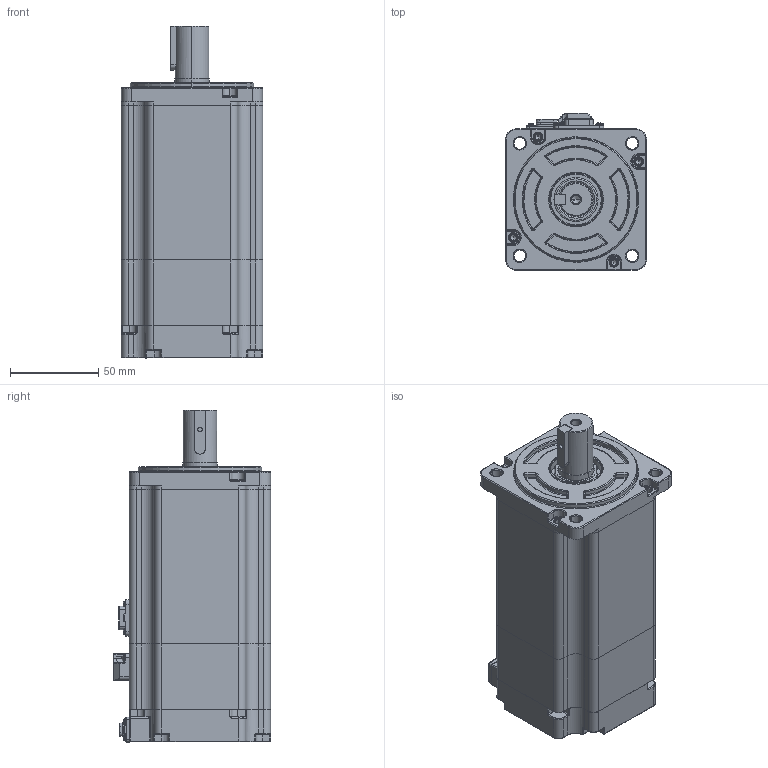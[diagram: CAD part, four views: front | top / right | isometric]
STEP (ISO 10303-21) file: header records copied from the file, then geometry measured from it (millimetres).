
FILE_DESCRIPTION (( 'STEP AP214' ), '1' );
FILE_NAME ('V7E-L08A-1R030-D2.STEP', '2021-08-09T05:52:06', ( '' ), ( '' ), 'SwSTEP 2.0', 'SolidWorks 2014', '' );
FILE_SCHEMA (( 'AUTOMOTIVE_DESIGN' ));
Length unit declared in the file: millimetre
Products named in the file (14): 750W隅赽郪璃; 蚐猾 D00B999YF5-TC 20-30-5-1; V7E-L08A-1R030-D2; 坋趼苤攫芛ISO 7045 - M2 x 5201611; 60-80蚳蚚雄薯脣釱-sc-mc6p-ac-goubanchazuo; 80#陔晤鎢ん欶; SC40陔晤鎢ん瑤脣釱sc-mc7p-a6-zhichuxianchazuo; 80#陔ヶ傷裔; 40#价陬堤盄揤盄裔; 坋趼苤攫芛ISO 7045 - M2 x 5; 普通型 平键   C 6x6x25 带M3起键螺钉孔; 750w儂褲; 80#陔綴傷裔-价陬遴_1; 80#陔粣-750W-拸价陬
Assembly tree (13 placements, depth 3):
  V7E-L08A-1R030-D2
    750W隅赽郪璃
      750w儂褲
      80#陔ヶ傷裔
      60-80蚳蚚雄薯脣釱-sc-mc6p-ac-goubanchazuo
    80#陔綴傷裔-价陬遴_1
    40#价陬堤盄揤盄裔
    坋趼苤攫芛ISO 7045 - M2 x 5201611
    坋趼苤攫芛ISO 7045 - M2 x 5
    80#陔晤鎢ん欶
    蚐猾 D00B999YF5-TC 20-30-5-1
    SC40陔晤鎢ん瑤脣釱sc-mc7p-a6-zhichuxianchazuo
    80#陔粣-750W-拸价陬
    普通型 平键   C 6x6x25 带M3起键螺钉孔
Bounding box: 80 x 89 x 188 mm (x, y, z)
Volume: 299358.5 mm3; surface area: 145965.5 mm2
Topology: 21 solids, 21 shells, 3978 faces, 9958 edges, 6027 vertices
Faces by surface type: plane 1754, cylinder 1375, bspline 553, cone 182, torus 86, sphere 28
Entity records: 191902 total; most frequent: CARTESIAN_POINT 56321, ORIENTED_EDGE 19622, DIRECTION 18417, EDGE_CURVE 9811, AXIS2_PLACEMENT_3D 6335, VERTEX_POINT 6027, LINE 5747, VECTOR 5747
